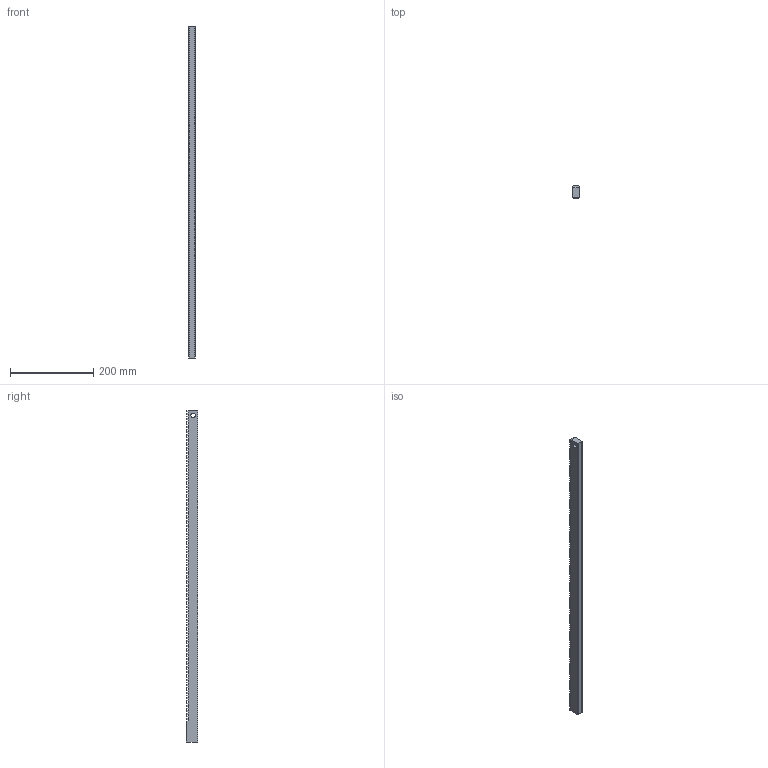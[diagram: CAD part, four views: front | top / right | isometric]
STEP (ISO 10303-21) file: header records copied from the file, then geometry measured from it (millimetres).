
FILE_DESCRIPTION (( 'STEP AP214' ), '1' );
FILE_NAME ('ZSZ 20.4206_61404.2597.06_STEP_20150226.STEP', '2015-02-26T10:03:24', ( '' ), ( '' ), 'SwSTEP 2.0', 'SolidWorks 2013', '' );
FILE_SCHEMA (( 'AUTOMOTIVE_DESIGN' ));
Length unit declared in the file: millimetre
Products named in the file (1): ZSZ 20.4206_61404.2597.06_STEP_20150226
Bounding box: 15 x 28 x 800 mm (x, y, z)
Volume: 306619.6 mm3; surface area: 75850.8 mm2
Topology: 1 solids, 1 shells, 730 faces, 2184 edges, 1456 vertices
Faces by surface type: plane 486, cylinder 244
Entity records: 24098 total; most frequent: CARTESIAN_POINT 5805, ORIENTED_EDGE 4368, DIRECTION 3180, EDGE_CURVE 2184, LINE 1694, VECTOR 1694, VERTEX_POINT 1456, AXIS2_PLACEMENT_3D 743
